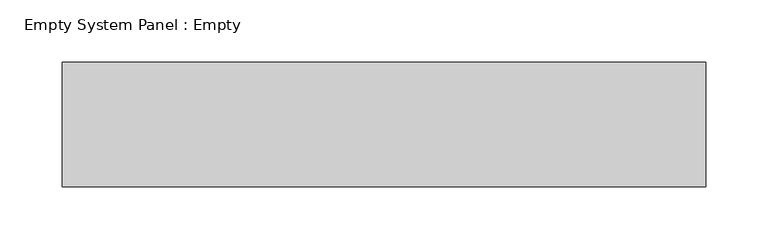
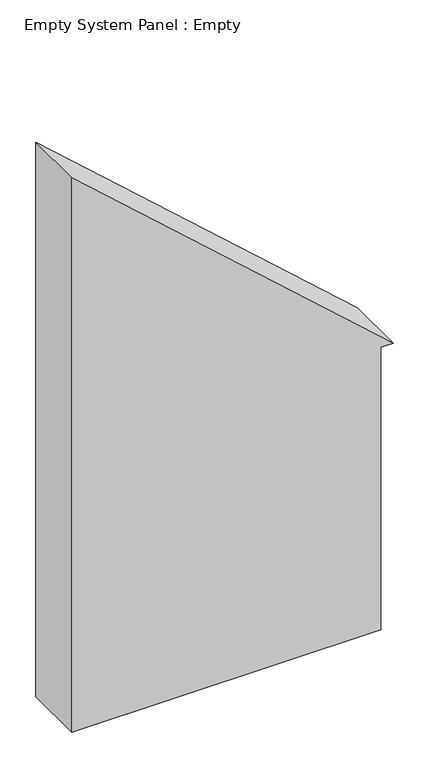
"""IFC4 building model written with IfcOpenShell, lengths in millimetres: plate geometry, Empty System Panel : Empty."""

import ifcopenshell
import ifcopenshell.guid

model = None  # the IFC model being written
_history = None  # IfcOwnerHistory: only IFC2X3 demands one
_inside = {}  # id of a spatial element -> (the spatial element, [elements in it])
_under = {}  # id of a project, library or spatial element -> (it, [spatial elements below it])
_declared = {}  # id of a project -> (the project, [libraries it declares])
_typed = {}  # id of a type object -> (the type object, [elements of that type])
_made_of = {}  # id of a material, layer set ... -> (it, [elements and type objects made of it])


def new_model(schema):
    """Start an empty IFC model of exactly this schema.

    Asked for "IFC4X3", IfcOpenShell would pick the latest addendum, in which some entities
    have other attributes; the version numbers below select the first issue.
    IFC2X3 requires an IfcOwnerHistory on every rooted entity: one is made here for all.
    """
    global model, _history
    if schema == "IFC4X3":
        model = ifcopenshell.file(schema_version=(4, 3, 0, 0))
    else:
        model = ifcopenshell.file(schema=schema)
    _inside.clear()
    _under.clear()
    _declared.clear()
    _typed.clear()
    _made_of.clear()
    _history = None
    if model.schema == "IFC2X3":
        org = make("IfcOrganization", Name="unknown")
        user = make(
            "IfcPersonAndOrganization",
            ThePerson=make("IfcPerson", FamilyName="unknown"),
            TheOrganization=org,
        )
        app = make(
            "IfcApplication",
            ApplicationDeveloper=org,
            Version="unknown",
            ApplicationFullName="unknown",
            ApplicationIdentifier="unknown",
        )
        _history = make(
            "IfcOwnerHistory",
            OwningUser=user,
            OwningApplication=app,
            ChangeAction="ADDED",
            CreationDate=0,
        )
    return model


def make(cls, **values):
    """One entity of the class cls with the attributes given. An attribute that is None is left unset."""
    return model.create_entity(
        cls, **{name: value for name, value in values.items() if value is not None}
    )


def rooted(cls, **values):
    """An entity with a GlobalId (a new one), such as an element, a storey or a relation."""
    return make(cls, GlobalId=ifcopenshell.guid.new(), OwnerHistory=_history, **values)


def si_unit(unit_type, name, prefix=None):
    """IfcSIUnit, for example si_unit("LENGTHUNIT", "METRE", prefix="MILLI")."""
    return make("IfcSIUnit", UnitType=unit_type, Prefix=prefix, Name=name)


def assignment(units):
    """IfcUnitAssignment: the units of a project."""
    return None if units is None else make("IfcUnitAssignment", Units=units)


def point(xyz):
    """IfcCartesianPoint."""
    return None if xyz is None else make("IfcCartesianPoint", Coordinates=xyz)


def direction(xyz):
    """IfcDirection."""
    return None if xyz is None else make("IfcDirection", DirectionRatios=xyz)


def frame(location, z_axis=None, x_axis=None):
    """IfcAxis2Placement3D, a coordinate frame: its origin and axes. An axis left out is left unset."""
    return make(
        "IfcAxis2Placement3D",
        Location=point(location),
        Axis=direction(z_axis),
        RefDirection=direction(x_axis),
    )


def origin():
    """The frame at (0, 0, 0) with its axes left unset."""
    return frame((0.0, 0.0, 0.0))


def place(relative_to, where):
    """IfcLocalPlacement: puts the frame where relative to a parent placement (None: the world)."""
    return make(
        "IfcLocalPlacement", PlacementRelTo=relative_to, RelativePlacement=where
    )


def context(
    kind, dimensions, precision=None, world=None, true_north=None, identifier=None
):
    """IfcGeometricRepresentationContext, for example the 3D "Model" context."""
    return make(
        "IfcGeometricRepresentationContext",
        ContextIdentifier=identifier,
        ContextType=kind,
        CoordinateSpaceDimension=dimensions,
        Precision=precision,
        WorldCoordinateSystem=world,
        TrueNorth=true_north,
    )


def project(units=None, contexts=None):
    """IfcProject with its units and contexts."""
    return rooted(
        "IfcProject",
        Name="project",
        RepresentationContexts=contexts,
        UnitsInContext=assignment(units),
    )


def spatial(cls, under=None, at=None, **own):
    """A site, building, storey or space (cls), placed at a placement, below another one or the project."""
    s = rooted(cls, ObjectPlacement=at, **own)
    if under is not None:
        _under.setdefault(under.id(), (under, []))[1].append(s)
    return s


def polyline(points):
    """IfcPolyline through the points."""
    return make("IfcPolyline", Points=[point(p) for p in points])


def outline(outer, holes=None, kind="AREA"):
    """IfcArbitraryClosedProfileDef: a profile drawn as a closed curve; with holes, ...WithVoids."""
    if holes is None:
        return make("IfcArbitraryClosedProfileDef", ProfileType=kind, OuterCurve=outer)
    return make(
        "IfcArbitraryProfileDefWithVoids",
        ProfileType=kind,
        OuterCurve=outer,
        InnerCurves=holes,
    )


def extrude(swept, where, along, depth):
    """IfcExtrudedAreaSolid: the profile swept, set in the frame where, extruded along a direction by depth."""
    return make(
        "IfcExtrudedAreaSolid",
        SweptArea=swept,
        Position=where,
        ExtrudedDirection=direction(along),
        Depth=depth,
    )


def shape(context_of_items, identifier, shape_type, items):
    """IfcShapeRepresentation: the items that make up one representation, for example the "Body"."""
    return make(
        "IfcShapeRepresentation",
        ContextOfItems=context_of_items,
        RepresentationIdentifier=identifier,
        RepresentationType=shape_type,
        Items=items,
    )


def source(mapping_origin, context_of_items, identifier, shape_type, items):
    """IfcRepresentationMap: a shape defined once, which mapped items show again and again."""
    return make(
        "IfcRepresentationMap",
        MappingOrigin=mapping_origin,
        MappedRepresentation=shape(context_of_items, identifier, shape_type, items),
    )


def transform(
    local_origin,
    x_axis=None,
    y_axis=None,
    z_axis=None,
    scale=None,
    scale2=None,
    scale3=None,
    uniform=True,
):
    """IfcCartesianTransformationOperator3D, or its non-uniform kind. x_axis, y_axis, z_axis: its Axis1, 2, 3."""
    if uniform:
        return make(
            "IfcCartesianTransformationOperator3D",
            Axis1=direction(x_axis),
            Axis2=direction(y_axis),
            LocalOrigin=point(local_origin),
            Scale=scale,
            Axis3=direction(z_axis),
        )
    return make(
        "IfcCartesianTransformationOperator3DnonUniform",
        Axis1=direction(x_axis),
        Axis2=direction(y_axis),
        LocalOrigin=point(local_origin),
        Scale=scale,
        Axis3=direction(z_axis),
        Scale2=scale2,
        Scale3=scale3,
    )


def mapped(mapping_source, mapping_target):
    """IfcMappedItem: shows the shape of a source again, moved by a transform."""
    return make(
        "IfcMappedItem", MappingSource=mapping_source, MappingTarget=mapping_target
    )


def made_of(thing, what):
    """Note that an element or type object is made of a material, layer set ...; save() writes the relation."""
    if what is not None:
        _made_of.setdefault(what.id(), (what, []))[1].append(thing)
    return thing


def element(
    cls,
    number,
    at=None,
    inside=None,
    cuts=None,
    type_object=None,
    material=None,
    context=None,
    identifier="Body",
    shape_type=None,
    held_by="IfcProductDefinitionShape",
    body=None,
    shapes=None,
    **own,
):
    """One element of the class cls, such as IfcWall. Its Tag is "e" and its number.

    at: its placement. inside: the storey or other place that contains it. cuts: it is an
    opening in that element (IfcRelVoidsElement). A single representation is given by context,
    identifier, shape_type and body (its items); several are given by shapes. held_by: the class
    of the entity that holds the representations. save() writes the other relations.
    """
    e = rooted(cls, Tag="e%d" % number, ObjectPlacement=at, **own)
    if body is not None:
        shapes = [shape(context, identifier, shape_type, body)]
    if shapes is not None:
        e.Representation = make(held_by, Representations=shapes)
    if inside is not None:
        _inside.setdefault(inside.id(), (inside, []))[1].append(e)
    if cuts is not None:
        rooted(
            "IfcRelVoidsElement", RelatingBuildingElement=cuts, RelatedOpeningElement=e
        )
    if type_object is not None:
        _typed.setdefault(type_object.id(), (type_object, []))[1].append(e)
    return made_of(e, material)


def aggregate(whole, parts):
    """IfcRelAggregates: a whole, such as a stair, and the parts it consists of."""
    return rooted("IfcRelAggregates", RelatingObject=whole, RelatedObjects=parts)


def save(model, path):
    """Write the relations noted so far, then the file.

    IfcRelAggregates (storeys below a building ...), IfcRelContainedInSpatialStructure (elements
    in a storey), IfcRelDefinesByType, IfcRelAssociatesMaterial and IfcRelDeclares: one each for
    every whole, place, type object, material and project.
    """
    for whole, parts in _under.values():
        aggregate(whole, parts)
    for where, things in _inside.values():
        rooted(
            "IfcRelContainedInSpatialStructure",
            RelatedElements=things,
            RelatingStructure=where,
        )
    for kind, things in _typed.values():
        rooted("IfcRelDefinesByType", RelatedObjects=things, RelatingType=kind)
    for what, things in _made_of.values():
        rooted("IfcRelAssociatesMaterial", RelatedObjects=things, RelatingMaterial=what)
    for by, libraries in _declared.values():
        rooted("IfcRelDeclares", RelatingContext=by, RelatedDefinitions=libraries)
    model.write(path)


def empty_system_panel_empty_1d8a8c5b(model_context):
    return source(origin(), model_context, "Body", "SweptSolid", [
        extrude(outline(polyline([(0.0, -258.7446429), (0.0, 238.7446429), (480.7928194, 238.7446429), (480.7928194, 258.7446429), (943.6953165, -258.7446429), (0.0, -258.7446429)])), frame((0.0, -50.0, 0.0), z_axis=(0.0, 1.0, 0.0), x_axis=(0.0, 0.0, 1.0)), (0.0, 0.0, 1.0), 100.0),
    ])


if __name__ == "__main__":
    model = new_model("IFC4")
    model_context = context("Model", 3, world=origin())
    ifc_project = project(units=[si_unit("LENGTHUNIT", "METRE", prefix="MILLI")], contexts=[model_context])
    site = spatial("IfcSite", under=ifc_project)
    building = spatial("IfcBuilding", under=site)
    placement = place(None, origin())
    empty_system_panel_empty_shape = empty_system_panel_empty_1d8a8c5b(model_context)
    element("IfcPlate", 1, ObjectType="Empty System Panel : Empty", at=placement, inside=building, context=model_context, shape_type="MappedRepresentation", body=[
        mapped(empty_system_panel_empty_shape, transform((0.0, 0.0, 0.0), x_axis=(1.0, 0.0, 0.0), y_axis=(0.0, 1.0, 0.0), z_axis=(0.0, 0.0, 1.0))),
    ])
    save(model, "model.ifc")
